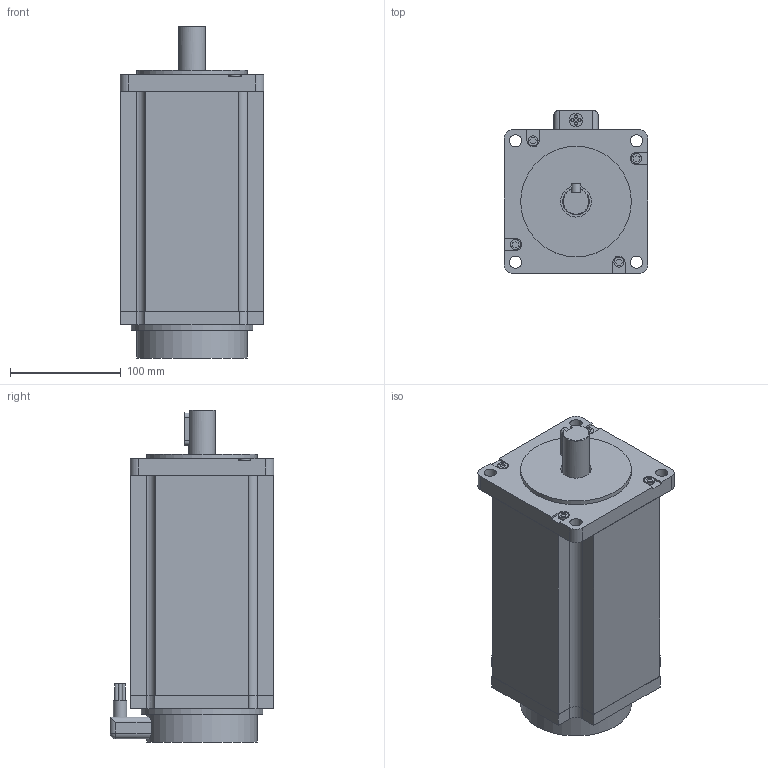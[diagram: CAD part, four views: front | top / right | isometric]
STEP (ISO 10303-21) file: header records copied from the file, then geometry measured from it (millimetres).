
FILE_DESCRIPTION(/* description */ (''),/* implementation_level */ '2;1');
FILE_NAME(/* name */ 'STC-130E68-03256.stp',/* time_stamp */ '2018-08-17T14:17:23+08:00',/* author */ (''),/* organization */ (''),/* preprocessor_version */ 'ST-DEVELOPER v11',/* originating_system */ 'SIEMENS UGS NX 6.0',/* authorisation */ '');
FILE_SCHEMA (('CONFIG_CONTROL_DESIGN'));
Length unit declared in the file: millimetre
Products named in the file (1): STC-130E68-03256
Bounding box: 130 x 148 x 300 mm (x, y, z)
Volume: 3707110.8 mm3; surface area: 170619.6 mm2
Topology: 2 solids, 3 shells, 153 faces, 379 edges, 251 vertices
Faces by surface type: plane 104, cylinder 46, sphere 2, torus 1
Full cylindrical faces by diameter (mm): 3 x4, 9 x4, 11 x4, 12 x1, 24 x1, 28 x1, 100 x2, 110 x1
Entity records: 4513 total; most frequent: CARTESIAN_POINT 831, DIRECTION 738, ORIENTED_EDGE 702, EDGE_CURVE 351, LINE 256, VECTOR 256, VERTEX_POINT 243, AXIS2_PLACEMENT_3D 241
